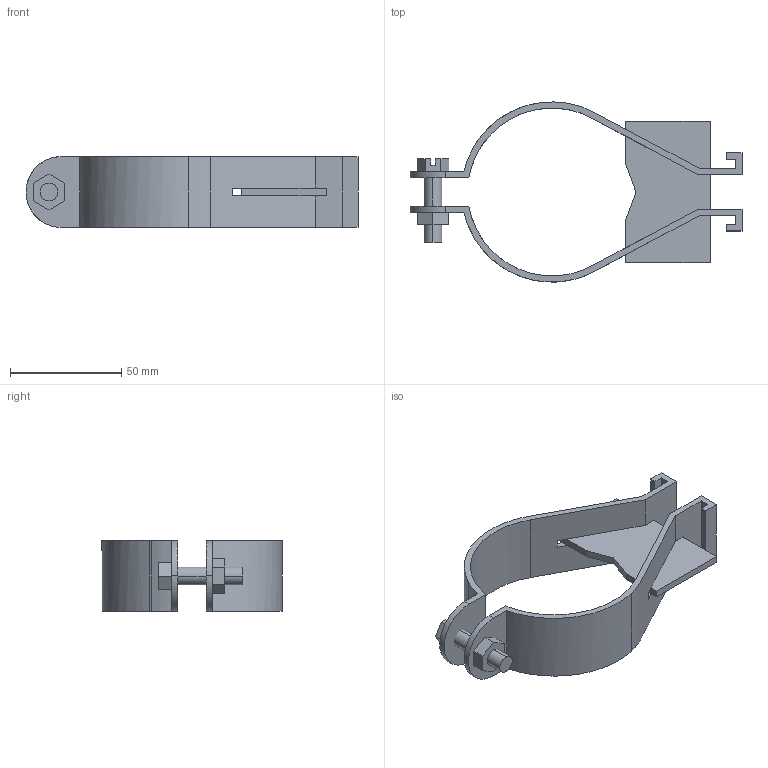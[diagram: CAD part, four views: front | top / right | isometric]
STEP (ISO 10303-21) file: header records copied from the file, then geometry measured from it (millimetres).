
FILE_DESCRIPTION(('TurboCAD Mac Pro'),'Build 980');
FILE_NAME('P1570.stp',' ',(''),(''),'ACIS Interop','IMSI','TurboCAD Mac Pro BY IMSI, INCORPORATED');
FILE_SCHEMA(('automotive_design'));
Length unit declared in the file: inch
Products named in the file (6): 1; 2; 3; 4; 5; 6
Bounding box: 148.97 x 80.78 x 31.74 mm (x, y, z)
Volume: 40928.6 mm3; surface area: 32282.5 mm2
Topology: 5 solids, 5 shells, 85 faces, 234 edges, 156 vertices
Faces by surface type: plane 64, bspline 20, cylinder 1
Entity records: 3808 total; most frequent: CARTESIAN_POINT 795, ORIENTED_EDGE 468, DIRECTION 360, EDGE_CURVE 234, LINE 198, VECTOR 198, VERTEX_POINT 156, STYLED_ITEM 104
